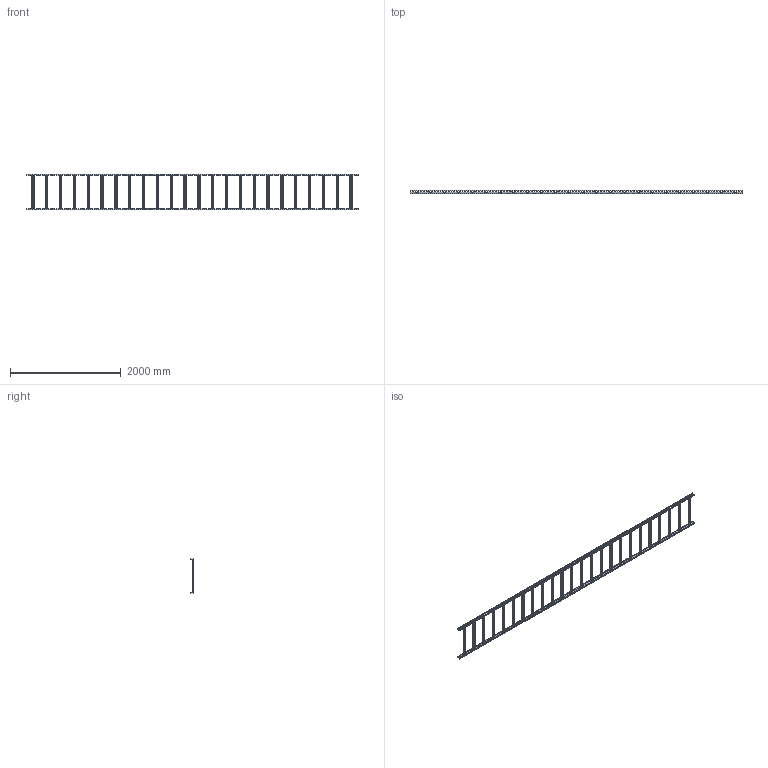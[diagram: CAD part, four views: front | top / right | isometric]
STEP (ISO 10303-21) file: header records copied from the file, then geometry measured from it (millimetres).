
FILE_DESCRIPTION(/* description */ (''),/* implementation_level */ '2;1');
FILE_NAME(/* name */ 'D:\Inventor projects\Biblioteka 3D\STP\WP 60-60.stp',/* time_stamp */ '2021-06-18T10:22:36+02:00',/* author */ ('psynowiec'),/* organization */ (''),/* preprocessor_version */ 'ST-DEVELOPER v16.13',/* originating_system */ 'Autodesk Inventor 2018',/* authorisation */ '');
FILE_SCHEMA (('AUTOMOTIVE_DESIGN { 1 0 10303 214 3 1 1 }'));
Products named in the file (1): WP 60-60
Bounding box: 6000 x 60 x 650.03 mm (x, y, z)
Volume: 4172281.6 mm3; surface area: 5725291.5 mm2
Topology: 26 solids, 26 shells, 6166 faces, 20438 edges, 13220 vertices
Faces by surface type: plane 4428, cylinder 1738
Full cylindrical faces by diameter (mm): 7 x42
Entity records: 238086 total; most frequent: CARTESIAN_POINT 57111, ORIENTED_EDGE 40792, DIRECTION 36014, EDGE_CURVE 20396, VERTEX_POINT 13220, LINE 12312, VECTOR 12312, AXIS2_PLACEMENT_3D 11851
